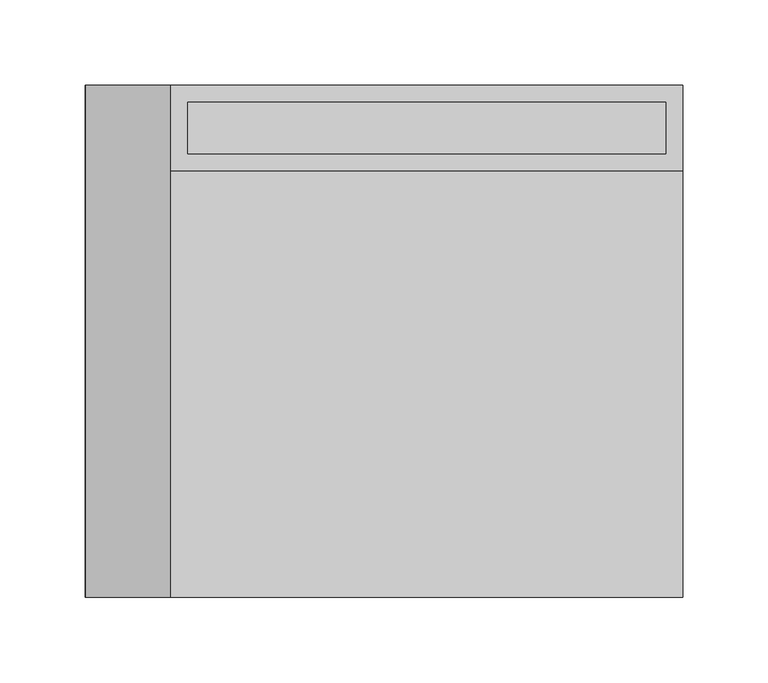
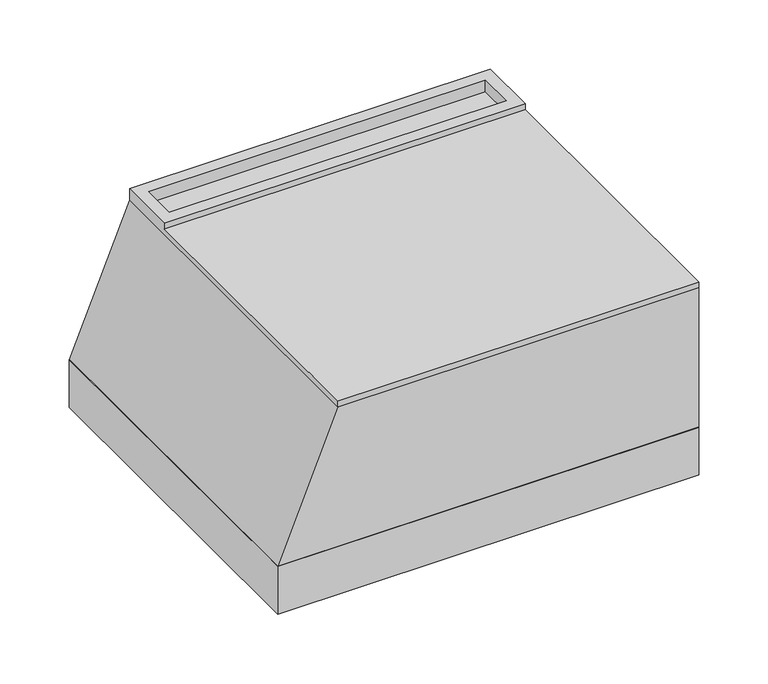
"""IFC4 building model written with IfcOpenShell, lengths in millimetres: cable carrier fitting geometry, BAKS_Universal elbow : KRUMJ_H42."""

from ifc_helpers import new_model, si_unit, frame, origin, place, context, project, spatial, polyline, outline, extrude, faceted_brep, source, transform, mapped, element, save


def cable_carrier_fitting_aa4403b1(model_context):
    return source(origin(), model_context, "Body", "SolidModel", [
        faceted_brep([(50.0, -150.0, 149.0), (350.0, -150.0, 149.0), (350.0, 100.0, 149.0), (50.0, 100.0, 149.0), (50.0, -150.0, 144.0), (50.0, 150.0, 144.0), (350.0, 150.0, 144.0), (350.0, -150.0, 144.0), (60.0, 110.0, 144.0), (340.0, 110.0, 144.0), (340.0, 140.0, 144.0), (60.0, 140.0, 144.0), (350.0, 150.0, 154.0), (350.0, 100.0, 154.0), (50.0, 150.0, 154.0), (50.0, 100.0, 154.0), (340.0, 110.0, 154.0), (60.0, 110.0, 154.0), (60.0, 140.0, 154.0), (340.0, 140.0, 154.0)], [[[0, 1, 2, 3]], [[4, 5, 6, 7], [8, 9, 10, 11]], [[1, 0, 4, 7]], [[7, 6, 12, 13, 2, 1]], [[6, 5, 14, 12]], [[5, 4, 0, 3, 15, 14]], [[15, 13, 12, 14], [16, 17, 18, 19]], [[13, 15, 3, 2]], [[16, 9, 8, 17]], [[9, 16, 19, 10]], [[10, 19, 18, 11]], [[17, 8, 11, 18]]]),
        extrude(outline(polyline([(350.0, 150.0), (350.0, -150.0), (0.0, -150.0), (0.0, 150.0), (350.0, 150.0)])), frame((0.0, 0.0, -21.0), z_axis=(0.0, 0.0, 1.0), x_axis=(1.0, 0.0, 0.0)), (0.0, 0.0, 1.0), 42.0),
        extrude(outline(polyline([(21.0, 0.0), (21.0, 350.0), (144.0, 350.0), (144.0, 50.0), (21.0, 0.0)])), frame((0.0, -150.0, 0.0), z_axis=(0.0, 1.0, 0.0), x_axis=(0.0, 0.0, 1.0)), (0.0, 0.0, 1.0), 300.0),
    ])


if __name__ == "__main__":
    model = new_model("IFC4")
    model_context = context("Model", 3, world=origin())
    ifc_project = project(units=[si_unit("LENGTHUNIT", "METRE", prefix="MILLI")], contexts=[model_context])
    site = spatial("IfcSite", under=ifc_project)
    building = spatial("IfcBuilding", under=site)
    placement = place(None, origin())
    cable_carrier_fitting_shape = cable_carrier_fitting_aa4403b1(model_context)
    element("IfcCableCarrierFitting", 1, ObjectType="BAKS_Universal elbow : KRUMJ_H42", at=placement, inside=building, context=model_context, shape_type="MappedRepresentation", body=[
        mapped(cable_carrier_fitting_shape, transform((0.0, 0.0, 0.0), x_axis=(1.0, 0.0, 0.0), y_axis=(0.0, 1.0, 0.0), z_axis=(0.0, 0.0, 1.0))),
    ])
    save(model, "model.ifc")
